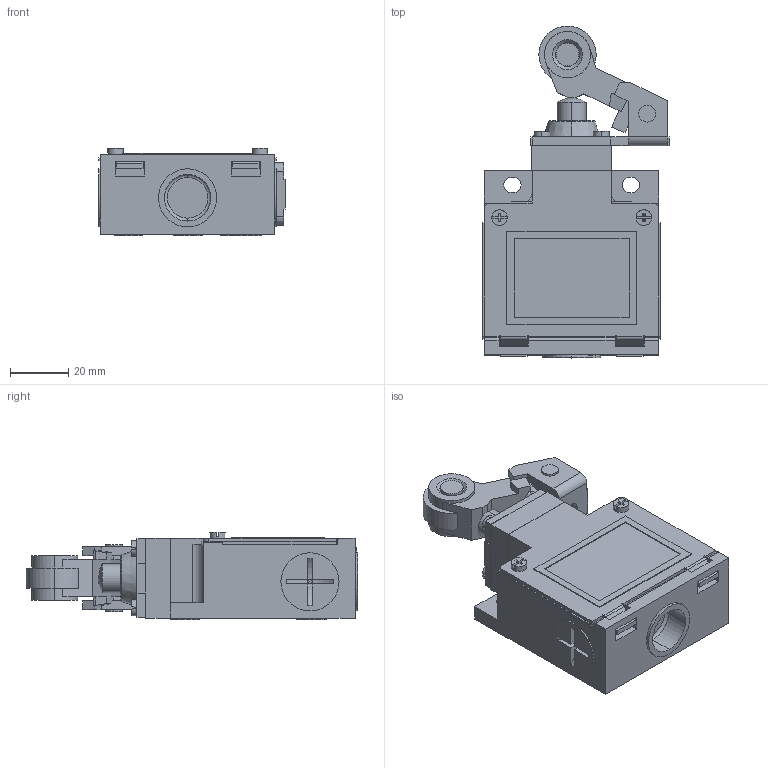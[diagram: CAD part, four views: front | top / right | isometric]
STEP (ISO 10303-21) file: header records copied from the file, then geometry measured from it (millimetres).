
FILE_DESCRIPTION (( 'STEP AP203' ), '1' );
FILE_NAME ('TZE21.STEP', '2018-02-07T13:48:31', ( '' ), ( '' ), 'SwSTEP 2.0', 'SolidWorks 2012', '' );
FILE_SCHEMA (( 'CONFIG_CONTROL_DESIGN' ));
Length unit declared in the file: millimetre
Products named in the file (1): TZE21
Bounding box: 64 x 114.16 x 30 mm (x, y, z)
Volume: 117287.6 mm3; surface area: 24604.4 mm2
Topology: 1 solids, 1 shells, 392 faces, 1021 edges, 657 vertices
Faces by surface type: plane 282, cylinder 98, cone 6, torus 4, sphere 2
Entity records: 12010 total; most frequent: CARTESIAN_POINT 2167, ORIENTED_EDGE 2042, DIRECTION 2019, EDGE_CURVE 1021, VECTOR 745, LINE 745, VERTEX_POINT 657, AXIS2_PLACEMENT_3D 637
